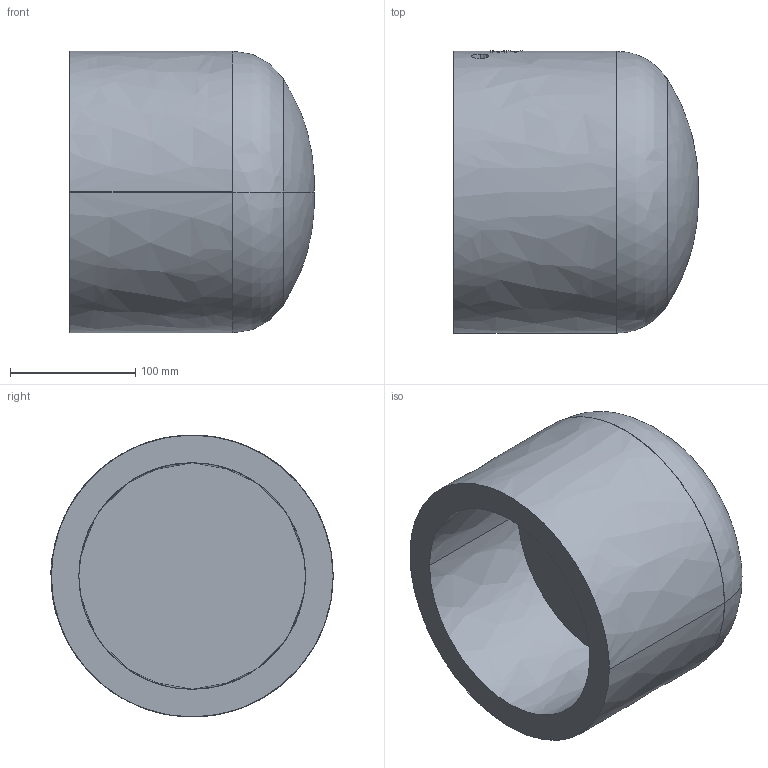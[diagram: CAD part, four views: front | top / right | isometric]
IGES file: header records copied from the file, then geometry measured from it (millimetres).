
Start section:  PTC IGES file: mv_d180.igs
Global section: file name: mv_d180.igs; native system: Pro/ENGINEER by Parametric Technology Corporation; preprocessor: 2006140; author: muellerc; organization: Unknown; date: 20060803.101944; units: millimetre
Bounding box: 195.14 x 225.34 x 225 mm (x, y, z)
Surface area: 249330.3 mm2 (no closed solid volume)
Topology: 0 solids, 0 shells, 54 faces, 293 edges, 298 vertices
Faces by surface type: bspline 54
